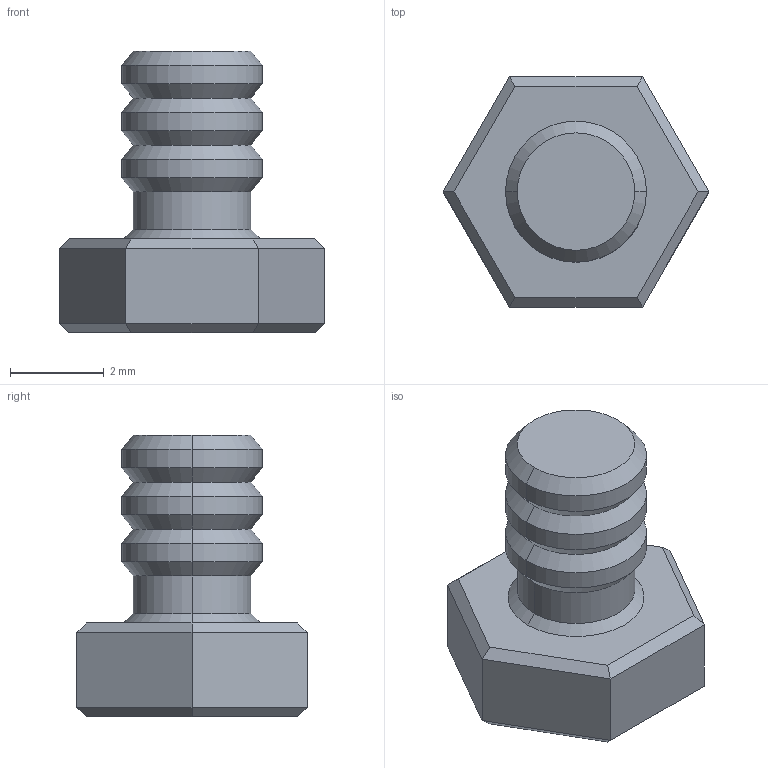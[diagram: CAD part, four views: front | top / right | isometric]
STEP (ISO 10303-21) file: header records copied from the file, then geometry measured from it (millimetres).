
FILE_DESCRIPTION (( 'STEP AP214' ), '1' );
FILE_NAME ('APF-M3.STEP', '2019-11-18T07:24:10', ( '微软用户' ), ( '微软中国' ), 'SwSTEP 2.0', 'SolidWorks 2016', '' );
FILE_SCHEMA (( 'AUTOMOTIVE_DESIGN' ));
Length unit declared in the file: millimetre
Products named in the file (1): APF-M3
Bounding box: 5.66 x 4.9 x 6 mm (x, y, z)
Volume: 65.2 mm3; surface area: 110 mm2
Topology: 1 solids, 1 shells, 43 faces, 88 edges, 48 vertices
Faces by surface type: plane 21, cone 14, cylinder 8
Entity records: 1124 total; most frequent: DIRECTION 200, CARTESIAN_POINT 180, ORIENTED_EDGE 176, EDGE_CURVE 88, AXIS2_PLACEMENT_3D 68, LINE 64, VECTOR 64, VERTEX_POINT 48
